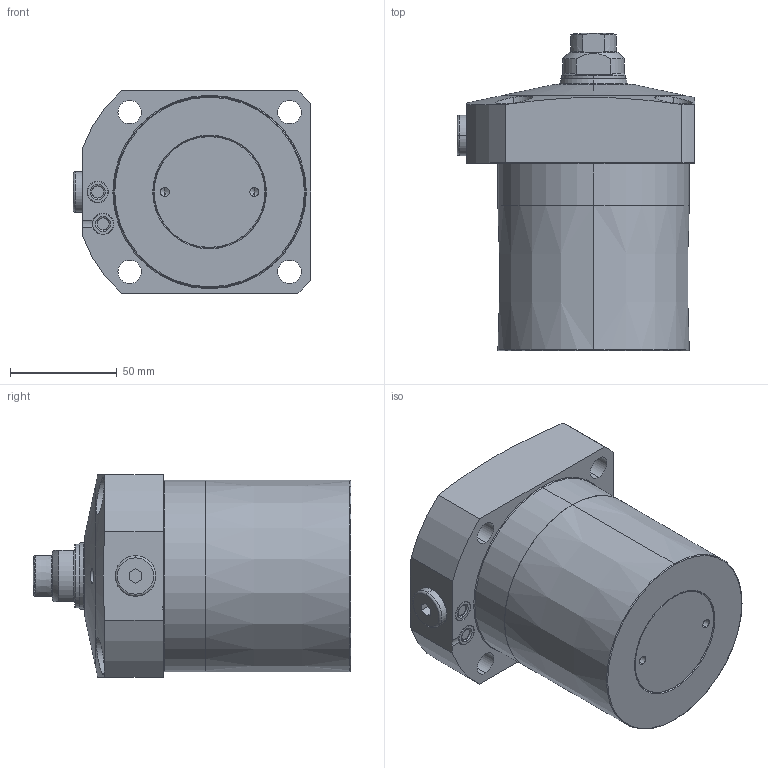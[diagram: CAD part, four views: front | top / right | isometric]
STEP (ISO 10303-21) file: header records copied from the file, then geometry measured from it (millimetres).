
FILE_DESCRIPTION(/* description */ (''),/* implementation_level */ '2;1');
FILE_NAME(/* name */ 'KFSC90.stp',/* time_stamp */ '2026-02-04T15:39:50+08:00',/* author */ (''),/* organization */ (''),/* preprocessor_version */ 'ST-DEVELOPER v16.7',/* originating_system */ 'SIEMENS PLM Software NX 12.0',/* authorisation */ '');
FILE_SCHEMA (('AUTOMOTIVE_DESIGN { 1 0 10303 214 3 1 1 1 }'));
Length unit declared in the file: millimetre
Products named in the file (8): XLC-M16_o-ring3868; XLC-M16_contactbolt1480; KFSC90-01; P7-3; KFSC90-04; KFSC90-02; KFSC90-03; KFSC90_stp
Assembly tree (8 placements, depth 3):
  KFSC90_stp
    KFSC90-02
    KFSC90-03
      XLC-M16_contactbolt1480
      XLC-M16_o-ring3868
    KFSC90-04
    P7-3  x2
    KFSC90-01
Bounding box: 111.5 x 149 x 95 mm (x, y, z)
Volume: 868181.2 mm3; surface area: 72356.6 mm2
Topology: 7 solids, 7 shells, 235 faces, 517 edges, 310 vertices
Faces by surface type: cylinder 74, torus 60, plane 52, cone 47, bspline 2
Entity records: 6757 total; most frequent: CARTESIAN_POINT 1444, DIRECTION 1180, ORIENTED_EDGE 966, AXIS2_PLACEMENT_3D 513, EDGE_CURVE 483, VERTEX_POINT 296, CIRCLE 283, EDGE_LOOP 259
